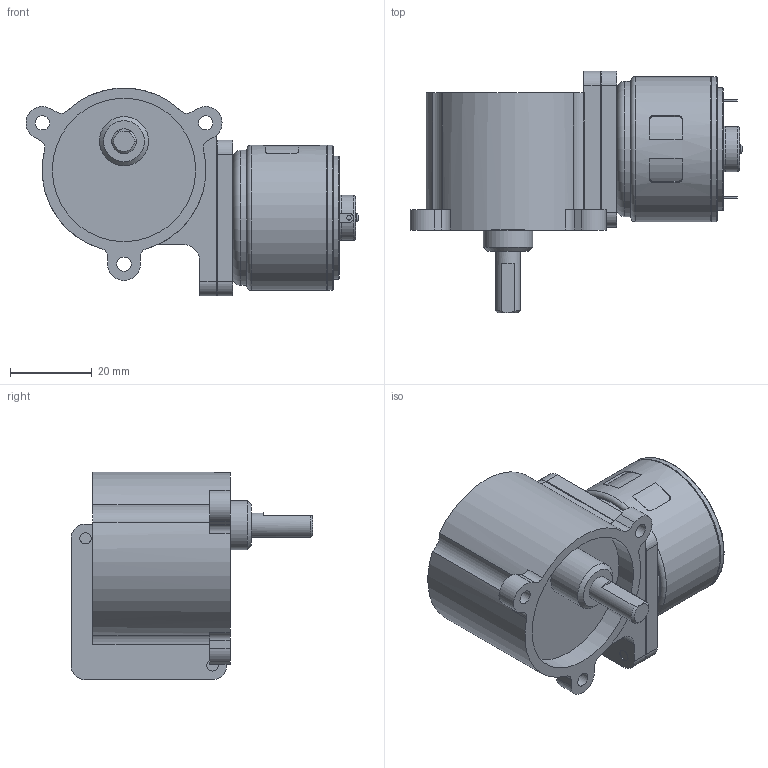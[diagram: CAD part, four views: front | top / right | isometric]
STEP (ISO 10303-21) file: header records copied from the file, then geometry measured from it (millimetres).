
FILE_DESCRIPTION(/* description */ (''),/* implementation_level */ '2;1');
FILE_NAME(/* name */ 'TP-3526NA-KW.stp',/* time_stamp */ '2024-01-10T09:20:40+09:00',/* author */ ('user'),/* organization */ (''),/* preprocessor_version */ 'ST-DEVELOPER v19.2',/* originating_system */ 'Autodesk Inventor 2024',/* authorisation */ '');
FILE_SCHEMA (('AUTOMOTIVE_DESIGN { 1 0 10303 214 3 1 1 }'));
Length unit declared in the file: millimetre
Products named in the file (3): TP-3526NA-KW-J00-24; kw; TP-3526(KE)
Assembly tree (2 placements, depth 2):
  TP-3526NA-KW-J00-24
    kw
    TP-3526(KE)
Bounding box: 81.02 x 59 x 50.63 mm (x, y, z)
Volume: 76363.3 mm3; surface area: 16352.2 mm2
Topology: 2 solids, 2 shells, 147 faces, 343 edges, 226 vertices
Faces by surface type: plane 66, cylinder 65, torus 9, cone 7
Full cylindrical faces by diameter (mm): 1.1 x2, 2 x2, 2.113 x3, 2.4 x2, 2.75 x2, 3 x1, 3.5 x3, 5 x1, 6 x3, 10 x2, 11 x1, 12 x1, 30 x1, 33 x1, 35 x2, 35.4 x2
Entity records: 4504 total; most frequent: DIRECTION 799, CARTESIAN_POINT 794, ORIENTED_EDGE 680, EDGE_CURVE 340, AXIS2_PLACEMENT_3D 317, VERTEX_POINT 226, EDGE_LOOP 186, CIRCLE 165
